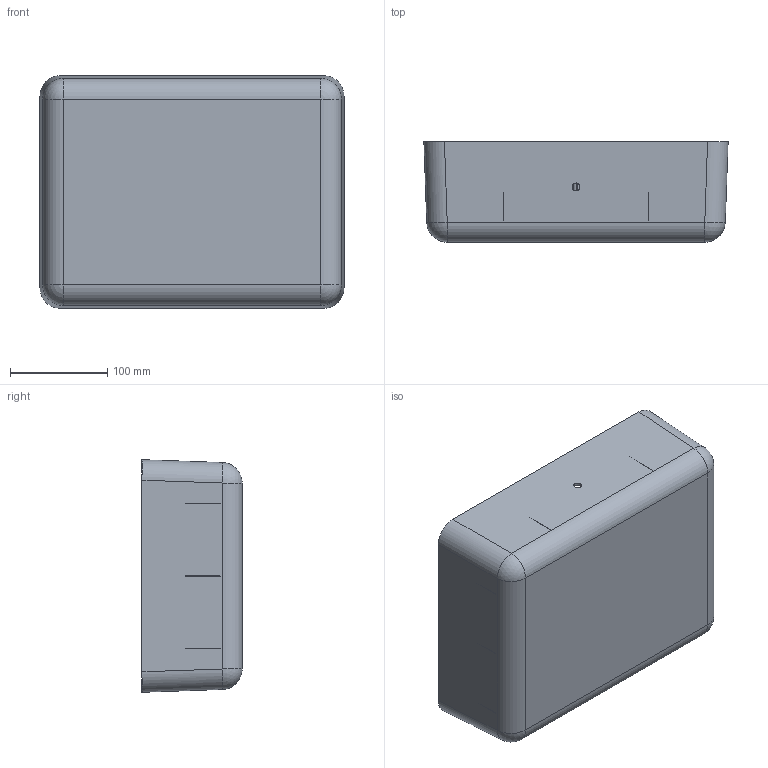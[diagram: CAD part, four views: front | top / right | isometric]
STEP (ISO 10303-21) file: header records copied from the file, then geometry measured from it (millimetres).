
FILE_DESCRIPTION (( 'STEP AP214' ), '1' );
FILE_NAME ('1400 Case Peli Bottom.STEP', '2016-01-11T01:54:02', ( '' ), ( '' ), 'SwSTEP 2.0', 'SolidWorks 2014', '' );
FILE_SCHEMA (( 'AUTOMOTIVE_DESIGN' ));
Length unit declared in the file: inch
Products named in the file (1): 1400 Case Peli Bottom
Bounding box: 312.92 x 103.12 x 239.26 mm (x, y, z)
Volume: 469423.9 mm3; surface area: 338278.7 mm2
Topology: 1 solids, 1 shells, 106 faces, 214 edges, 124 vertices
Faces by surface type: cylinder 52, plane 36, bspline 10, sphere 8
Entity records: 2888 total; most frequent: CARTESIAN_POINT 847, ORIENTED_EDGE 412, DIRECTION 400, EDGE_CURVE 206, AXIS2_PLACEMENT_3D 157, EDGE_LOOP 130, VERTEX_POINT 124, ADVANCED_FACE 106
